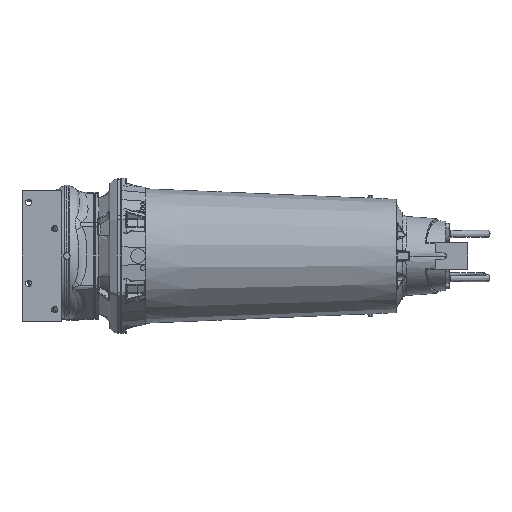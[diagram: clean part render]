
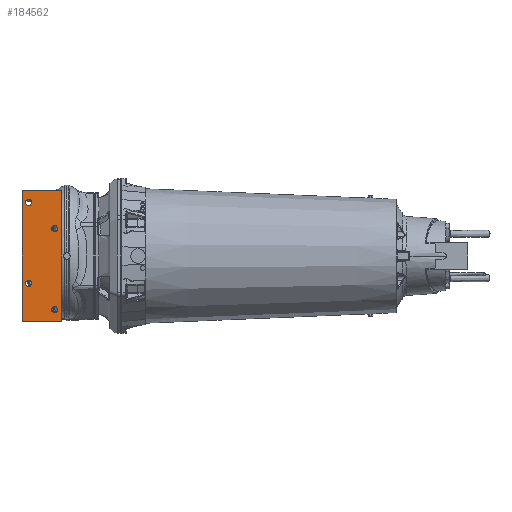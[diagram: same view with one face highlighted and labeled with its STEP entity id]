
A CAD part, front view. The second image highlights one B-rep face of the part: STEP entity #184562.
In plain terms, the highlighted planar face has unit normal (0, -1, 0).
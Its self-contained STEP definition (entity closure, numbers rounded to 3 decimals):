
#2264 = CARTESIAN_POINT ( 'NONE',  ( -470.75, -340.563, -105.565 ) ) ;
#4943 = CIRCLE ( 'NONE', #69133, 11.5 ) ;
#12308 = FACE_OUTER_BOUND ( 'NONE', #33661, .T. ) ;
#12378 = CARTESIAN_POINT ( 'NONE',  ( -470.75, -340.563, 205.565 ) ) ;
#12562 = CARTESIAN_POINT ( 'NONE',  ( -345.75, -340.563, -250. ) ) ;
#13697 = CARTESIAN_POINT ( 'NONE',  ( -382.25, -340.563, -205.565 ) ) ;
#15736 = EDGE_CURVE ( 'NONE', #20216, #198783, #235815, .T. ) ;
#17807 = VERTEX_POINT ( 'NONE', #13697 ) ;
#18284 = FACE_BOUND ( 'NONE', #28459, .T. ) ;
#20216 = VERTEX_POINT ( 'NONE', #201540 ) ;
#20447 = VERTEX_POINT ( 'NONE', #188262 ) ;
#21269 = EDGE_CURVE ( 'NONE', #239562, #224946, #26987, .T. ) ;
#21408 = DIRECTION ( 'NONE',  ( -1., 0., 0. ) ) ;
#22845 = LINE ( 'NONE', #206980, #87475 ) ;
#23685 = ORIENTED_EDGE ( 'NONE', *, *, #118340, .F. ) ;
#24016 = VERTEX_POINT ( 'NONE', #118021 ) ;
#26987 = CIRCLE ( 'NONE', #51640, 11.5 ) ;
#28459 = EDGE_LOOP ( 'NONE', ( #146594, #148690 ) ) ;
#29651 = EDGE_CURVE ( 'NONE', #177983, #20447, #45991, .T. ) ;
#30356 = VERTEX_POINT ( 'NONE', #12562 ) ;
#31510 = DIRECTION ( 'NONE',  ( -1., 0., 0. ) ) ;
#31710 = ORIENTED_EDGE ( 'NONE', *, *, #109860, .F. ) ;
#31776 = AXIS2_PLACEMENT_3D ( 'NONE', #2264, #135575, #21408 ) ;
#33661 = EDGE_LOOP ( 'NONE', ( #152031, #176142, #31710, #62167 ) ) ;
#35421 = EDGE_CURVE ( 'NONE', #17807, #24016, #145829, .T. ) ;
#36289 = CARTESIAN_POINT ( 'NONE',  ( -495.75, -340.563, 250. ) ) ;
#45991 = CIRCLE ( 'NONE', #158874, 11.5 ) ;
#47904 = CARTESIAN_POINT ( 'NONE',  ( -370.75, -340.563, 105.565 ) ) ;
#49329 = AXIS2_PLACEMENT_3D ( 'NONE', #194308, #80074, #213405 ) ;
#50461 = DIRECTION ( 'NONE',  ( 0., 1., 0. ) ) ;
#50656 = ORIENTED_EDGE ( 'NONE', *, *, #29651, .F. ) ;
#51640 = AXIS2_PLACEMENT_3D ( 'NONE', #101533, #101491, #101010 ) ;
#56950 = CARTESIAN_POINT ( 'NONE',  ( -370.75, -340.563, -205.565 ) ) ;
#62167 = ORIENTED_EDGE ( 'NONE', *, *, #104084, .F. ) ;
#63009 = FACE_BOUND ( 'NONE', #75094, .T. ) ;
#66035 = CARTESIAN_POINT ( 'NONE',  ( -482.25, -340.563, -105.565 ) ) ;
#67111 = DIRECTION ( 'NONE',  ( -1., 0., 0. ) ) ;
#68994 = FACE_BOUND ( 'NONE', #189854, .T. ) ;
#69133 = AXIS2_PLACEMENT_3D ( 'NONE', #56950, #190364, #76162 ) ;
#75094 = EDGE_LOOP ( 'NONE', ( #129133, #130029 ) ) ;
#76162 = DIRECTION ( 'NONE',  ( -1., 0., 0. ) ) ;
#80074 = DIRECTION ( 'NONE',  ( 0., -1., 0. ) ) ;
#80203 = DIRECTION ( 'NONE',  ( 0., -1., 0. ) ) ;
#80761 = CARTESIAN_POINT ( 'NONE',  ( -470.75, -340.563, -105.565 ) ) ;
#87475 = VECTOR ( 'NONE', #178397, 1000. ) ;
#89289 = DIRECTION ( 'NONE',  ( -1., 0., 0. ) ) ;
#98589 = EDGE_CURVE ( 'NONE', #30356, #188575, #186157, .T. ) ;
#100368 = LINE ( 'NONE', #185425, #168873 ) ;
#101010 = DIRECTION ( 'NONE',  ( -1., 0., 0. ) ) ;
#101491 = DIRECTION ( 'NONE',  ( 0., -1., 0. ) ) ;
#101533 = CARTESIAN_POINT ( 'NONE',  ( -470.75, -340.563, 205.565 ) ) ;
#104084 = EDGE_CURVE ( 'NONE', #188575, #145576, #22845, .T. ) ;
#109188 = CARTESIAN_POINT ( 'NONE',  ( -495.75, -340.563, -250. ) ) ;
#109860 = EDGE_CURVE ( 'NONE', #145576, #165062, #190532, .T. ) ;
#110084 = CARTESIAN_POINT ( 'NONE',  ( -459.25, -340.563, 205.565 ) ) ;
#112132 = EDGE_CURVE ( 'NONE', #165062, #30356, #100368, .T. ) ;
#113275 = CARTESIAN_POINT ( 'NONE',  ( -495.75, -340.563, -250. ) ) ;
#113699 = FACE_BOUND ( 'NONE', #208107, .T. ) ;
#115451 = EDGE_CURVE ( 'NONE', #198783, #20216, #125714, .T. ) ;
#116012 = CARTESIAN_POINT ( 'NONE',  ( -359.25, -340.563, 105.565 ) ) ;
#117910 = EDGE_CURVE ( 'NONE', #224946, #239562, #237484, .T. ) ;
#118021 = CARTESIAN_POINT ( 'NONE',  ( -359.25, -340.563, -205.565 ) ) ;
#118340 = EDGE_CURVE ( 'NONE', #20447, #177983, #186707, .T. ) ;
#121202 = EDGE_CURVE ( 'NONE', #24016, #17807, #4943, .T. ) ;
#122738 = CARTESIAN_POINT ( 'NONE',  ( -345.75, -340.563, 250. ) ) ;
#123806 = ORIENTED_EDGE ( 'NONE', *, *, #15736, .F. ) ;
#125714 = CIRCLE ( 'NONE', #211825, 11.5 ) ;
#128439 = ORIENTED_EDGE ( 'NONE', *, *, #115451, .F. ) ;
#129133 = ORIENTED_EDGE ( 'NONE', *, *, #21269, .F. ) ;
#130029 = ORIENTED_EDGE ( 'NONE', *, *, #117910, .F. ) ;
#135575 = DIRECTION ( 'NONE',  ( 0., -1., 0. ) ) ;
#143469 = AXIS2_PLACEMENT_3D ( 'NONE', #164525, #50461, #183760 ) ;
#143708 = AXIS2_PLACEMENT_3D ( 'NONE', #161136, #160957, #160909 ) ;
#145576 = VERTEX_POINT ( 'NONE', #36289 ) ;
#145726 = DIRECTION ( 'NONE',  ( 0., -1., 0. ) ) ;
#145829 = CIRCLE ( 'NONE', #49329, 11.5 ) ;
#146594 = ORIENTED_EDGE ( 'NONE', *, *, #35421, .F. ) ;
#147125 = DIRECTION ( 'NONE',  ( 0., 0., -1. ) ) ;
#148690 = ORIENTED_EDGE ( 'NONE', *, *, #121202, .F. ) ;
#152031 = ORIENTED_EDGE ( 'NONE', *, *, #98589, .F. ) ;
#156222 = AXIS2_PLACEMENT_3D ( 'NONE', #12378, #145726, #31510 ) ;
#158874 = AXIS2_PLACEMENT_3D ( 'NONE', #80761, #80203, #89289 ) ;
#159403 = CARTESIAN_POINT ( 'NONE',  ( -495.75, -340.563, 250. ) ) ;
#160909 = DIRECTION ( 'NONE',  ( -1., 0., 0. ) ) ;
#160957 = DIRECTION ( 'NONE',  ( 0., -1., 0. ) ) ;
#161136 = CARTESIAN_POINT ( 'NONE',  ( -370.75, -340.563, 105.565 ) ) ;
#162086 = PLANE ( 'NONE',  #143469 ) ;
#164525 = CARTESIAN_POINT ( 'NONE',  ( -345.75, -340.563, -250. ) ) ;
#165062 = VERTEX_POINT ( 'NONE', #122738 ) ;
#168873 = VECTOR ( 'NONE', #147125, 1000. ) ;
#176142 = ORIENTED_EDGE ( 'NONE', *, *, #112132, .F. ) ;
#177983 = VERTEX_POINT ( 'NONE', #66035 ) ;
#178397 = DIRECTION ( 'NONE',  ( 0., 0., 1. ) ) ;
#178548 = DIRECTION ( 'NONE',  ( 1., 0., 0. ) ) ;
#181194 = DIRECTION ( 'NONE',  ( 0., -1., 0. ) ) ;
#183492 = VECTOR ( 'NONE', #209165, 1000. ) ;
#183760 = DIRECTION ( 'NONE',  ( -1., 0., 0. ) ) ;
#184562 = ADVANCED_FACE ( 'NONE', ( #113699, #63009, #68994, #18284, #12308 ), #162086, .F. ) ;
#185425 = CARTESIAN_POINT ( 'NONE',  ( -345.75, -340.563, 250. ) ) ;
#186157 = LINE ( 'NONE', #113275, #183492 ) ;
#186707 = CIRCLE ( 'NONE', #31776, 11.5 ) ;
#188262 = CARTESIAN_POINT ( 'NONE',  ( -459.25, -340.563, -105.565 ) ) ;
#188575 = VERTEX_POINT ( 'NONE', #109188 ) ;
#189854 = EDGE_LOOP ( 'NONE', ( #50656, #23685 ) ) ;
#190331 = VECTOR ( 'NONE', #178548, 1000. ) ;
#190364 = DIRECTION ( 'NONE',  ( 0., -1., 0. ) ) ;
#190532 = LINE ( 'NONE', #159403, #190331 ) ;
#194308 = CARTESIAN_POINT ( 'NONE',  ( -370.75, -340.563, -205.565 ) ) ;
#198783 = VERTEX_POINT ( 'NONE', #116012 ) ;
#201540 = CARTESIAN_POINT ( 'NONE',  ( -382.25, -340.563, 105.565 ) ) ;
#206980 = CARTESIAN_POINT ( 'NONE',  ( -495.75, -340.563, 250. ) ) ;
#208107 = EDGE_LOOP ( 'NONE', ( #123806, #128439 ) ) ;
#209165 = DIRECTION ( 'NONE',  ( -1., 0., 0. ) ) ;
#211825 = AXIS2_PLACEMENT_3D ( 'NONE', #47904, #181194, #67111 ) ;
#213405 = DIRECTION ( 'NONE',  ( -1., 0., 0. ) ) ;
#224946 = VERTEX_POINT ( 'NONE', #110084 ) ;
#235815 = CIRCLE ( 'NONE', #143708, 11.5 ) ;
#237484 = CIRCLE ( 'NONE', #156222, 11.5 ) ;
#237619 = CARTESIAN_POINT ( 'NONE',  ( -482.25, -340.563, 205.565 ) ) ;
#239562 = VERTEX_POINT ( 'NONE', #237619 ) ;
